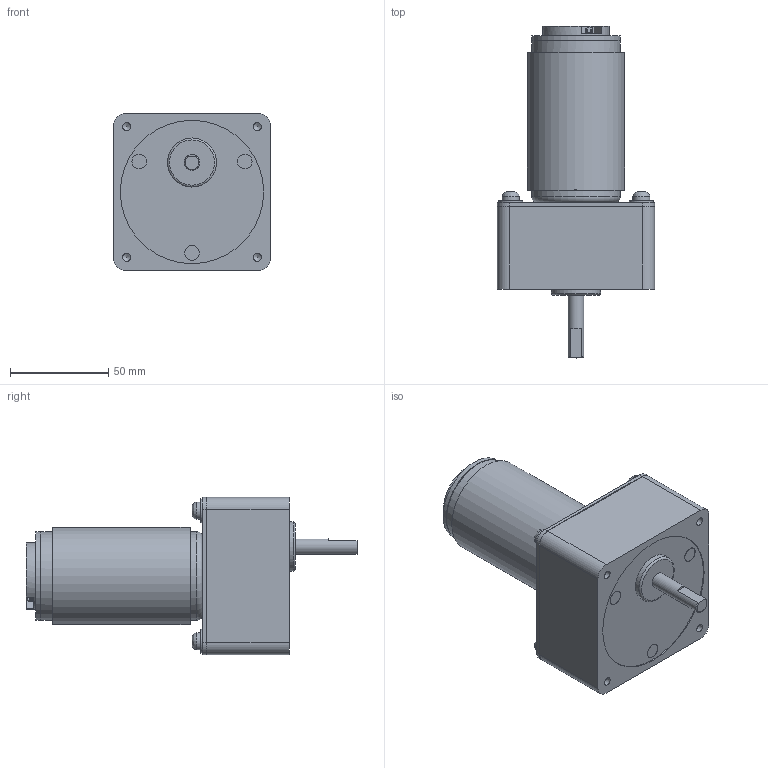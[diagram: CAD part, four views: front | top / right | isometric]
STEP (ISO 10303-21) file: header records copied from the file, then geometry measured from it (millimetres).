
FILE_DESCRIPTION((''),'2;1');
FILE_NAME('C:\Documents and Settings\SSEGAWA\デスクトップ\TP-4990A-DE-4_5.STP','2013-07-29T17:32:47',('SSEGAWA'),(''),'Autodesk Inventor 2010','Autodesk Inventor 2010','');
FILE_SCHEMA(('CONFIG_CONTROL_DESIGN'));
Length unit declared in the file: millimetre
Products named in the file (1): tp_4990a_de_4-5_Shrinkwrap_1
Bounding box: 80 x 169 x 80 mm (x, y, z)
Volume: 442911.7 mm3; surface area: 43969.3 mm2
Topology: 1 solids, 4 shells, 129 faces, 290 edges, 192 vertices
Faces by surface type: plane 69, cylinder 35, bspline 22, torus 2, cone 1
Full cylindrical faces by diameter (mm): 4 x1, 6 x1, 7.5 x3, 8 x1, 8.8 x4, 9 x1, 12 x4, 13 x1, 25 x1, 34 x1, 44.6 x1, 45 x2, 73 x1
Entity records: 3718 total; most frequent: CARTESIAN_POINT 959, DIRECTION 538, ORIENTED_EDGE 454, EDGE_CURVE 227, AXIS2_PLACEMENT_3D 205, EDGE_LOOP 199, VERTEX_POINT 172, STYLED_ITEM 130
